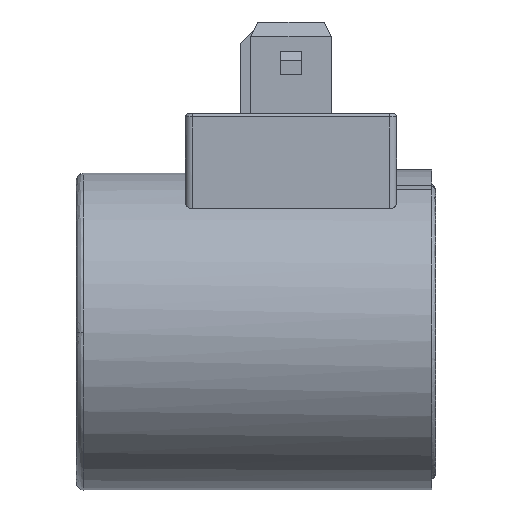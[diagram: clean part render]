
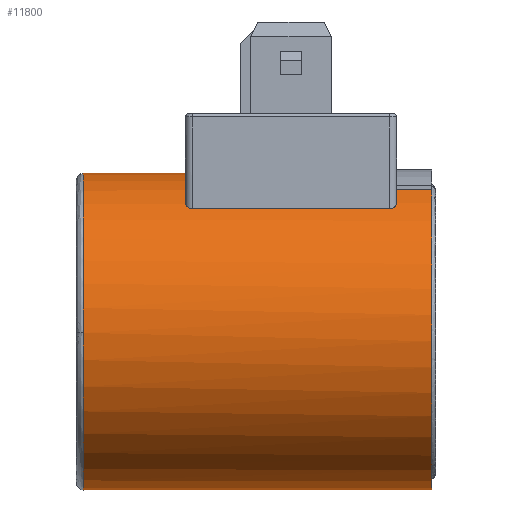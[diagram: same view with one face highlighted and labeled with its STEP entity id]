
A CAD part, top view. The second image highlights one B-rep face of the part: STEP entity #11800.
In plain terms, the highlighted cylindrical face has radius 22.5 mm (diameter 45 mm), a partial arc.
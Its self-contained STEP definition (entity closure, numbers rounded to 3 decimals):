
#275 = VERTEX_POINT ( 'NONE', #4585 ) ;
#608 = VERTEX_POINT ( 'NONE', #5173 ) ;
#1059 = ORIENTED_EDGE ( 'NONE', *, *, #18153, .F. ) ;
#1228 = CARTESIAN_POINT ( 'NONE',  ( -49.9, -22.5, 0. ) ) ;
#2317 = CARTESIAN_POINT ( 'NONE',  ( -24.17, 22.5, 0. ) ) ;
#2515 = CARTESIAN_POINT ( 'NONE',  ( -24.17, 20.156, 10. ) ) ;
#2760 = EDGE_LOOP ( 'NONE', ( #7783, #12594, #12021, #4870, #19829, #13129, #1059 ) ) ;
#4317 = CARTESIAN_POINT ( 'NONE',  ( -49.9, -0.207, 22.499 ) ) ;
#4585 = CARTESIAN_POINT ( 'NONE',  ( -0.4, 20.156, 10. ) ) ;
#4870 = ORIENTED_EDGE ( 'NONE', *, *, #17651, .T. ) ;
#5173 = CARTESIAN_POINT ( 'NONE',  ( -49.9, 22.5, 0. ) ) ;
#5816 = CARTESIAN_POINT ( 'NONE',  ( -0.4, 22.5, 0. ) ) ;
#5953 = CARTESIAN_POINT ( 'NONE',  ( -0.4, -22.5, 0. ) ) ;
#5954 = DIRECTION ( 'NONE',  ( 1., 0., 0. ) ) ;
#5990 = VECTOR ( 'NONE', #5954, 1000. ) ;
#6064 = DIRECTION ( 'NONE',  ( -1., 0., 0. ) ) ;
#6193 = CARTESIAN_POINT ( 'NONE',  ( -0.4, 20.156, 10. ) ) ;
#7043 = CIRCLE ( 'NONE', #10097, 22.5 ) ;
#7285 = DIRECTION ( 'NONE',  ( 1., 0., 0. ) ) ;
#7783 = ORIENTED_EDGE ( 'NONE', *, *, #17760, .T. ) ;
#7964 = CARTESIAN_POINT ( 'NONE',  ( -0.4, -22.5, 0. ) ) ;
#7988 = DIRECTION ( 'NONE',  ( 0., 1., 0. ) ) ;
#7993 = DIRECTION ( 'NONE',  ( -1., 0., 0. ) ) ;
#8027 = CARTESIAN_POINT ( 'NONE',  ( -24.17, 0., 0. ) ) ;
#8772 = CIRCLE ( 'NONE', #9782, 22.5 ) ;
#9782 = AXIS2_PLACEMENT_3D ( 'NONE', #22857, #22809, #22785 ) ;
#9913 = DIRECTION ( 'NONE',  ( 0., 1., 0. ) ) ;
#9934 = DIRECTION ( 'NONE',  ( 1., 0., 0. ) ) ;
#10018 = CARTESIAN_POINT ( 'NONE',  ( -49.9, 0., 0. ) ) ;
#10097 = AXIS2_PLACEMENT_3D ( 'NONE', #8027, #7993, #7988 ) ;
#10138 = AXIS2_PLACEMENT_3D ( 'NONE', #10018, #9934, #9913 ) ;
#10176 = AXIS2_PLACEMENT_3D ( 'NONE', #10927, #10925, #10899 ) ;
#10899 = DIRECTION ( 'NONE',  ( 0., 1., 0. ) ) ;
#10925 = DIRECTION ( 'NONE',  ( -1., 0., 0. ) ) ;
#10927 = CARTESIAN_POINT ( 'NONE',  ( -0.4, 0., 0. ) ) ;
#11800 = ADVANCED_FACE ( 'NONE', ( #13390 ), #13263, .T. ) ;
#12021 = ORIENTED_EDGE ( 'NONE', *, *, #18001, .T. ) ;
#12594 = ORIENTED_EDGE ( 'NONE', *, *, #19113, .T. ) ;
#13129 = ORIENTED_EDGE ( 'NONE', *, *, #17926, .T. ) ;
#13263 = CYLINDRICAL_SURFACE ( 'NONE', #14793, 22.5 ) ;
#13390 = FACE_OUTER_BOUND ( 'NONE', #2760, .T. ) ;
#13558 = LINE ( 'NONE', #7964, #17199 ) ;
#14793 = AXIS2_PLACEMENT_3D ( 'NONE', #18917, #18869, #19164 ) ;
#16635 = CIRCLE ( 'NONE', #10138, 22.5 ) ;
#17199 = VECTOR ( 'NONE', #7285, 1000. ) ;
#17651 = EDGE_CURVE ( 'NONE', #20365, #275, #22383, .T. ) ;
#17760 = EDGE_CURVE ( 'NONE', #608, #23681, #16635, .T. ) ;
#17926 = EDGE_CURVE ( 'NONE', #21198, #21249, #7043, .T. ) ;
#18001 = EDGE_CURVE ( 'NONE', #22518, #20365, #13558, .T. ) ;
#18117 = EDGE_CURVE ( 'NONE', #275, #21198, #18338, .T. ) ;
#18153 = EDGE_CURVE ( 'NONE', #608, #21249, #22677, .T. ) ;
#18338 = LINE ( 'NONE', #6193, #21366 ) ;
#18869 = DIRECTION ( 'NONE',  ( 1., 0., 0. ) ) ;
#18917 = CARTESIAN_POINT ( 'NONE',  ( -0.4, 0., 0. ) ) ;
#19113 = EDGE_CURVE ( 'NONE', #23681, #22518, #8772, .T. ) ;
#19164 = DIRECTION ( 'NONE',  ( 0., 1., 0. ) ) ;
#19829 = ORIENTED_EDGE ( 'NONE', *, *, #18117, .T. ) ;
#20365 = VERTEX_POINT ( 'NONE', #5953 ) ;
#21198 = VERTEX_POINT ( 'NONE', #2515 ) ;
#21249 = VERTEX_POINT ( 'NONE', #2317 ) ;
#21366 = VECTOR ( 'NONE', #6064, 1000. ) ;
#22383 = CIRCLE ( 'NONE', #10176, 22.5 ) ;
#22518 = VERTEX_POINT ( 'NONE', #1228 ) ;
#22677 = LINE ( 'NONE', #5816, #5990 ) ;
#22785 = DIRECTION ( 'NONE',  ( 0., 1., 0. ) ) ;
#22809 = DIRECTION ( 'NONE',  ( 1., 0., 0. ) ) ;
#22857 = CARTESIAN_POINT ( 'NONE',  ( -49.9, 0., 0. ) ) ;
#23681 = VERTEX_POINT ( 'NONE', #4317 ) ;
